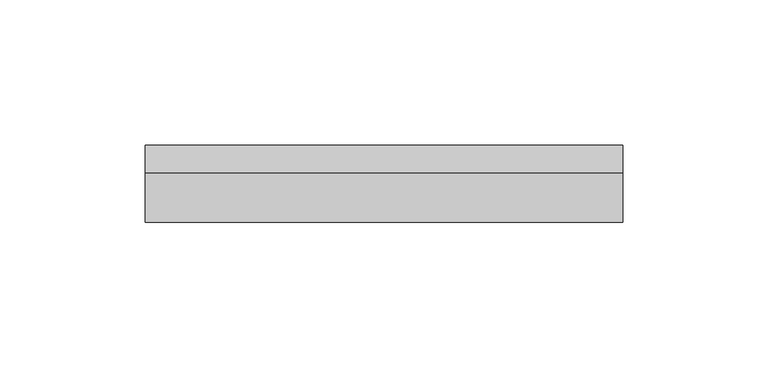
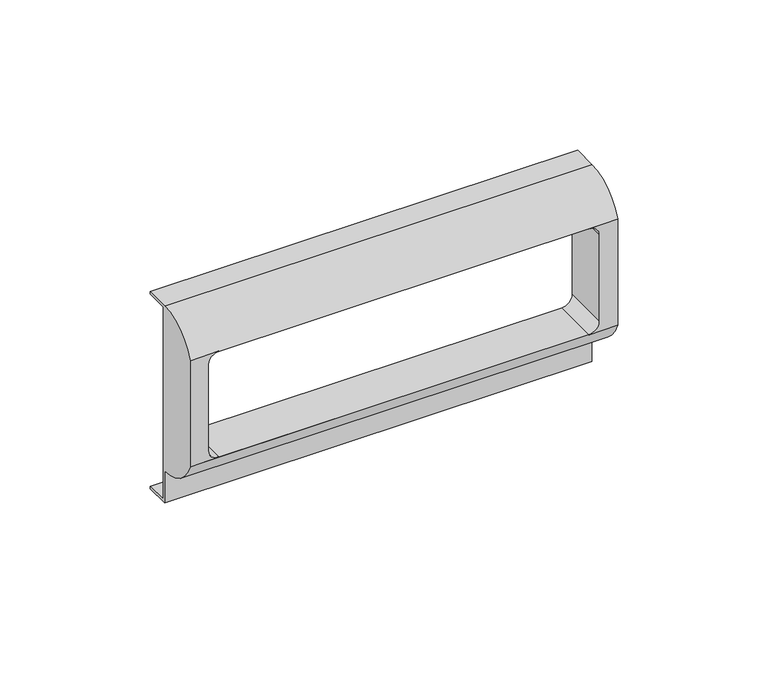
"""IFC4 building model written with IfcOpenShell, lengths in millimetres: proxy geometry."""

import ifcopenshell
import ifcopenshell.guid

model = None  # the IFC model being written
_history = None  # IfcOwnerHistory: only IFC2X3 demands one
_inside = {}  # id of a spatial element -> (the spatial element, [elements in it])
_under = {}  # id of a project, library or spatial element -> (it, [spatial elements below it])
_declared = {}  # id of a project -> (the project, [libraries it declares])
_typed = {}  # id of a type object -> (the type object, [elements of that type])
_made_of = {}  # id of a material, layer set ... -> (it, [elements and type objects made of it])


def new_model(schema):
    """Start an empty IFC model of exactly this schema.

    Asked for "IFC4X3", IfcOpenShell would pick the latest addendum, in which some entities
    have other attributes; the version numbers below select the first issue.
    IFC2X3 requires an IfcOwnerHistory on every rooted entity: one is made here for all.
    """
    global model, _history
    if schema == "IFC4X3":
        model = ifcopenshell.file(schema_version=(4, 3, 0, 0))
    else:
        model = ifcopenshell.file(schema=schema)
    _inside.clear()
    _under.clear()
    _declared.clear()
    _typed.clear()
    _made_of.clear()
    _history = None
    if model.schema == "IFC2X3":
        org = make("IfcOrganization", Name="unknown")
        user = make(
            "IfcPersonAndOrganization",
            ThePerson=make("IfcPerson", FamilyName="unknown"),
            TheOrganization=org,
        )
        app = make(
            "IfcApplication",
            ApplicationDeveloper=org,
            Version="unknown",
            ApplicationFullName="unknown",
            ApplicationIdentifier="unknown",
        )
        _history = make(
            "IfcOwnerHistory",
            OwningUser=user,
            OwningApplication=app,
            ChangeAction="ADDED",
            CreationDate=0,
        )
    return model


def make(cls, **values):
    """One entity of the class cls with the attributes given. An attribute that is None is left unset."""
    return model.create_entity(
        cls, **{name: value for name, value in values.items() if value is not None}
    )


def rooted(cls, **values):
    """An entity with a GlobalId (a new one), such as an element, a storey or a relation."""
    return make(cls, GlobalId=ifcopenshell.guid.new(), OwnerHistory=_history, **values)


def si_unit(unit_type, name, prefix=None):
    """IfcSIUnit, for example si_unit("LENGTHUNIT", "METRE", prefix="MILLI")."""
    return make("IfcSIUnit", UnitType=unit_type, Prefix=prefix, Name=name)


def assignment(units):
    """IfcUnitAssignment: the units of a project."""
    return None if units is None else make("IfcUnitAssignment", Units=units)


def point(xyz):
    """IfcCartesianPoint."""
    return None if xyz is None else make("IfcCartesianPoint", Coordinates=xyz)


def direction(xyz):
    """IfcDirection."""
    return None if xyz is None else make("IfcDirection", DirectionRatios=xyz)


def frame(location, z_axis=None, x_axis=None):
    """IfcAxis2Placement3D, a coordinate frame: its origin and axes. An axis left out is left unset."""
    return make(
        "IfcAxis2Placement3D",
        Location=point(location),
        Axis=direction(z_axis),
        RefDirection=direction(x_axis),
    )


def origin():
    """The frame at (0, 0, 0) with its axes left unset."""
    return frame((0.0, 0.0, 0.0))


def place(relative_to, where):
    """IfcLocalPlacement: puts the frame where relative to a parent placement (None: the world)."""
    return make(
        "IfcLocalPlacement", PlacementRelTo=relative_to, RelativePlacement=where
    )


def context(
    kind, dimensions, precision=None, world=None, true_north=None, identifier=None
):
    """IfcGeometricRepresentationContext, for example the 3D "Model" context."""
    return make(
        "IfcGeometricRepresentationContext",
        ContextIdentifier=identifier,
        ContextType=kind,
        CoordinateSpaceDimension=dimensions,
        Precision=precision,
        WorldCoordinateSystem=world,
        TrueNorth=true_north,
    )


def project(units=None, contexts=None):
    """IfcProject with its units and contexts."""
    return rooted(
        "IfcProject",
        Name="project",
        RepresentationContexts=contexts,
        UnitsInContext=assignment(units),
    )


def spatial(cls, under=None, at=None, **own):
    """A site, building, storey or space (cls), placed at a placement, below another one or the project."""
    s = rooted(cls, ObjectPlacement=at, **own)
    if under is not None:
        _under.setdefault(under.id(), (under, []))[1].append(s)
    return s


def polyline(points):
    """IfcPolyline through the points."""
    return make("IfcPolyline", Points=[point(p) for p in points])


def circle_curve(where, radius):
    """IfcCircle in the frame where."""
    return make("IfcCircle", Position=where, Radius=radius)


def shape(context_of_items, identifier, shape_type, items):
    """IfcShapeRepresentation: the items that make up one representation, for example the "Body"."""
    return make(
        "IfcShapeRepresentation",
        ContextOfItems=context_of_items,
        RepresentationIdentifier=identifier,
        RepresentationType=shape_type,
        Items=items,
    )


def source(mapping_origin, context_of_items, identifier, shape_type, items):
    """IfcRepresentationMap: a shape defined once, which mapped items show again and again."""
    return make(
        "IfcRepresentationMap",
        MappingOrigin=mapping_origin,
        MappedRepresentation=shape(context_of_items, identifier, shape_type, items),
    )


def transform(
    local_origin,
    x_axis=None,
    y_axis=None,
    z_axis=None,
    scale=None,
    scale2=None,
    scale3=None,
    uniform=True,
):
    """IfcCartesianTransformationOperator3D, or its non-uniform kind. x_axis, y_axis, z_axis: its Axis1, 2, 3."""
    if uniform:
        return make(
            "IfcCartesianTransformationOperator3D",
            Axis1=direction(x_axis),
            Axis2=direction(y_axis),
            LocalOrigin=point(local_origin),
            Scale=scale,
            Axis3=direction(z_axis),
        )
    return make(
        "IfcCartesianTransformationOperator3DnonUniform",
        Axis1=direction(x_axis),
        Axis2=direction(y_axis),
        LocalOrigin=point(local_origin),
        Scale=scale,
        Axis3=direction(z_axis),
        Scale2=scale2,
        Scale3=scale3,
    )


def mapped(mapping_source, mapping_target):
    """IfcMappedItem: shows the shape of a source again, moved by a transform."""
    return make(
        "IfcMappedItem", MappingSource=mapping_source, MappingTarget=mapping_target
    )


def made_of(thing, what):
    """Note that an element or type object is made of a material, layer set ...; save() writes the relation."""
    if what is not None:
        _made_of.setdefault(what.id(), (what, []))[1].append(thing)
    return thing


def element(
    cls,
    number,
    at=None,
    inside=None,
    cuts=None,
    type_object=None,
    material=None,
    context=None,
    identifier="Body",
    shape_type=None,
    held_by="IfcProductDefinitionShape",
    body=None,
    shapes=None,
    **own,
):
    """One element of the class cls, such as IfcWall. Its Tag is "e" and its number.

    at: its placement. inside: the storey or other place that contains it. cuts: it is an
    opening in that element (IfcRelVoidsElement). A single representation is given by context,
    identifier, shape_type and body (its items); several are given by shapes. held_by: the class
    of the entity that holds the representations. save() writes the other relations.
    """
    e = rooted(cls, Tag="e%d" % number, ObjectPlacement=at, **own)
    if body is not None:
        shapes = [shape(context, identifier, shape_type, body)]
    if shapes is not None:
        e.Representation = make(held_by, Representations=shapes)
    if inside is not None:
        _inside.setdefault(inside.id(), (inside, []))[1].append(e)
    if cuts is not None:
        rooted(
            "IfcRelVoidsElement", RelatingBuildingElement=cuts, RelatedOpeningElement=e
        )
    if type_object is not None:
        _typed.setdefault(type_object.id(), (type_object, []))[1].append(e)
    return made_of(e, material)


def aggregate(whole, parts):
    """IfcRelAggregates: a whole, such as a stair, and the parts it consists of."""
    return rooted("IfcRelAggregates", RelatingObject=whole, RelatedObjects=parts)


def save(model, path):
    """Write the relations noted so far, then the file.

    IfcRelAggregates (storeys below a building ...), IfcRelContainedInSpatialStructure (elements
    in a storey), IfcRelDefinesByType, IfcRelAssociatesMaterial and IfcRelDeclares: one each for
    every whole, place, type object, material and project.
    """
    for whole, parts in _under.values():
        aggregate(whole, parts)
    for where, things in _inside.values():
        rooted(
            "IfcRelContainedInSpatialStructure",
            RelatedElements=things,
            RelatingStructure=where,
        )
    for kind, things in _typed.values():
        rooted("IfcRelDefinesByType", RelatedObjects=things, RelatingType=kind)
    for what, things in _made_of.values():
        rooted("IfcRelAssociatesMaterial", RelatedObjects=things, RelatingMaterial=what)
    for by, libraries in _declared.values():
        rooted("IfcRelDeclares", RelatingContext=by, RelatedDefinitions=libraries)
    model.write(path)


def plane_surface(at):
    """IfcPlane: the flat surface through the origin of the frame at, square to its z axis."""
    return make("IfcPlane", Position=at)


def cylinder_surface(at, radius):
    """IfcCylindricalSurface: all points at the distance radius from the z axis of the frame at."""
    return make("IfcCylindricalSurface", Position=at, Radius=radius)


def revolved_surface(curve, axis_point, axis_direction):
    """IfcSurfaceOfRevolution: the curve turned about the line through axis_point along axis_direction."""
    return make(
        "IfcSurfaceOfRevolution",
        SweptCurve=make("IfcArbitraryOpenProfileDef", ProfileType="CURVE", Curve=curve),
        AxisPosition=make("IfcAxis1Placement", Location=point(axis_point), Axis=direction(axis_direction)),
    )


def advanced_brep(points, edges, surfaces, faces):
    """IfcAdvancedBrep: a solid bounded by faces that lie on surfaces and meet in shared edges.

    An edge is (start, end): straight between two places in points (the first is 0);
    or (start, end, curve); or (start, end, curve, False) where it runs against its curve.
    A face is (place in surfaces, loops), or (place, loops, False) where it looks against
    its surface's normal. A loop lists edges by number (the first is 1), with a minus sign
    where the edge is run from its end to its start. The first loop is the outer one.
    """
    corners = [point(p) for p in points]
    vertices = [make("IfcVertexPoint", VertexGeometry=c) for c in corners]
    made = []
    for start, end, *more in edges:
        made.append(
            make(
                "IfcEdgeCurve",
                EdgeStart=vertices[start],
                EdgeEnd=vertices[end],
                EdgeGeometry=more[0] if more else make("IfcPolyline", Points=[corners[start], corners[end]]),
                SameSense=more[1] if len(more) > 1 else True,
            )
        )
    hull = []
    for where, loops, *sense in faces:
        bounds = []
        for j, loop in enumerate(loops):
            ring = [make("IfcOrientedEdge", EdgeElement=made[abs(k) - 1], Orientation=k > 0) for k in loop]
            bounds.append(
                make(
                    "IfcFaceOuterBound" if j == 0 else "IfcFaceBound",
                    Bound=make("IfcEdgeLoop", EdgeList=ring),
                    Orientation=True,
                )
            )
        hull.append(make("IfcAdvancedFace", Bounds=bounds, FaceSurface=surfaces[where], SameSense=sense[0] if sense else True))
    return make("IfcAdvancedBrep", Outer=make("IfcClosedShell", CfsFaces=hull))


def electrical_fixtures_432cce51(model_context):
    return source(origin(), model_context, "Body", "AdvancedBrep", [
        advanced_brep(
        [(82.0, 8.4, 39.0), (82.0, 8.4, 40.0), (82.0, -1.0, 40.0), (82.0, -18.0, 28.0), (82.0, -18.0, -15.0), (82.0, -1.0, -27.0), (82.0, -1.0, -40.0), (82.0, 8.4, -40.0), (82.0, 8.4, -39.0), (82.0, 0.0, -39.0), (82.0, 0.0, 39.0), (-82.0, 8.4, 39.0), (-82.0, 0.0, 39.0), (-82.0, 0.0, -39.0), (-82.0, 8.4, -39.0), (-82.0, 8.4, -40.0), (-82.0, -1.0, -40.0), (-82.0, -1.0, -27.0), (-82.0, -18.0, -15.0), (-82.0, -18.0, 28.0), (-82.0, -1.0, 40.0), (-82.0, 8.4, 40.0), (70.9686648, -18.0, 28.0), (75.0, -18.0, 23.9686648), (75.0, -18.0, -10.9686648), (70.9686648, -18.0, -15.0), (-70.9686648, -18.0, -15.0), (-75.0, -18.0, -10.9686648), (-75.0, -18.0, 23.9686648), (-70.9686648, -18.0, 28.0), (70.9686648, 0.0, 28.0), (-70.9686648, 0.0, 28.0), (-75.0, 0.0, 23.9686648), (-75.0, 0.0, -10.9686648), (-70.9686648, 0.0, -15.0), (70.9686648, 0.0, -15.0), (75.0, 0.0, -10.9686648), (75.0, 0.0, 23.9686648)],
        [
            (0, 1),
            (1, 2),
            (2, 3, circle_curve(frame((82.0, -1.0, 21.9583333), z_axis=(1.0, 0.0, 0.0), x_axis=(0.0, 1.0, 0.0)), 18.0416667)),
            (3, 4),
            (4, 5, circle_curve(frame((82.0, -1.0, -8.9583333), z_axis=(1.0, 0.0, 0.0), x_axis=(0.0, 1.0, 0.0)), 18.0416667)),
            (5, 6),
            (6, 7),
            (7, 8),
            (8, 9),
            (9, 10),
            (10, 0),
            (11, 12),
            (12, 13),
            (13, 14),
            (14, 15),
            (15, 16),
            (16, 17),
            (17, 18, circle_curve(frame((-82.0, -1.0, -8.9583333), z_axis=(-1.0, 0.0, 0.0), x_axis=(0.0, 1.0, 0.0)), 18.0416667)),
            (18, 19),
            (19, 20, circle_curve(frame((-82.0, -1.0, 21.9583333), z_axis=(-1.0, 0.0, 0.0), x_axis=(0.0, 1.0, 0.0)), 18.0416667)),
            (20, 21),
            (21, 11),
            (0, 11),
            (21, 1),
            (20, 2),
            (3, 22),
            (22, 23, circle_curve(frame((70.9686648, -18.0, 23.9686648), z_axis=(0.0, 1.0, 0.0), x_axis=(1.0, 0.0, 0.0)), 4.0313352)),
            (23, 24),
            (24, 25, circle_curve(frame((70.9686648, -18.0, -10.9686648), z_axis=(0.0, 1.0, 0.0), x_axis=(1.0, 0.0, 0.0)), 4.0313352)),
            (25, 4),
            (18, 26),
            (26, 27, circle_curve(frame((-70.9686648, -18.0, -10.9686648), z_axis=(0.0, 1.0, 0.0), x_axis=(1.0, 0.0, 0.0)), 4.0313352)),
            (27, 28),
            (28, 29, circle_curve(frame((-70.9686648, -18.0, 23.9686648), z_axis=(0.0, 1.0, 0.0), x_axis=(1.0, 0.0, 0.0)), 4.0313352)),
            (29, 19),
            (5, 17),
            (16, 6),
            (15, 7),
            (14, 8),
            (13, 9),
            (12, 10),
            (30, 31),
            (31, 32, circle_curve(frame((-70.9686648, 0.0, 23.9686648), z_axis=(0.0, -1.0, 0.0), x_axis=(1.0, 0.0, 0.0)), 4.0313352)),
            (32, 33),
            (33, 34, circle_curve(frame((-70.9686648, 0.0, -10.9686648), z_axis=(0.0, -1.0, 0.0), x_axis=(1.0, 0.0, 0.0)), 4.0313352)),
            (34, 35),
            (35, 36, circle_curve(frame((70.9686648, 0.0, -10.9686648), z_axis=(0.0, -1.0, 0.0), x_axis=(1.0, 0.0, 0.0)), 4.0313352)),
            (36, 37),
            (37, 30, circle_curve(frame((70.9686648, 0.0, 23.9686648), z_axis=(0.0, -1.0, 0.0), x_axis=(1.0, 0.0, 0.0)), 4.0313352)),
            (29, 22),
            (25, 26),
            (29, 31),
            (30, 22),
            (28, 32),
            (27, 33),
            (26, 34),
            (25, 35),
            (24, 36),
            (23, 37),
        ],
        [
            plane_surface(frame((82.0, 8.4, 40.0), z_axis=(1.0, 0.0, 0.0), x_axis=(0.0, 0.0, 1.0))),
            plane_surface(frame((-82.0, 8.4, 40.0), z_axis=(-1.0, 0.0, 0.0), x_axis=(0.0, 0.0, -1.0))),
            plane_surface(frame((82.0, 8.4, 39.0), z_axis=(0.0, 1.0, 0.0), x_axis=(-1.0, 0.0, 0.0))),
            plane_surface(frame((82.0, 8.4, 40.0), z_axis=(0.0, 0.0, 1.0), x_axis=(-1.0, 0.0, 0.0))),
            plane_surface(frame((82.0, -18.0, 28.0), z_axis=(0.0, -1.0, 0.0), x_axis=(-1.0, 0.0, 0.0))),
            plane_surface(frame((82.0, -1.0, -27.0), z_axis=(0.0, -1.0, 0.0), x_axis=(-1.0, 0.0, 0.0))),
            plane_surface(frame((82.0, -1.0, -40.0), z_axis=(0.0, 0.0, -1.0), x_axis=(-1.0, 0.0, 0.0))),
            plane_surface(frame((82.0, 8.4, -40.0), z_axis=(0.0, 1.0, 0.0), x_axis=(-1.0, 0.0, 0.0))),
            plane_surface(frame((82.0, 8.4, -39.0), z_axis=(0.0, 0.0, 1.0), x_axis=(-1.0, 0.0, 0.0))),
            plane_surface(frame((82.0, 0.0, -39.0), z_axis=(0.0, 1.0, 0.0), x_axis=(-1.0, 0.0, 0.0))),
            plane_surface(frame((82.0, 0.0, 39.0), z_axis=(0.0, 0.0, -1.0), x_axis=(-1.0, 0.0, 0.0))),
            cylinder_surface(frame((-82.0, -1.0, 21.9583333), z_axis=(1.0, 0.0, 0.0), x_axis=(0.0, 1.0, 0.0)), 18.0416667),
            cylinder_surface(frame((-82.0, -1.0, -8.9583333), z_axis=(1.0, 0.0, 0.0), x_axis=(0.0, 1.0, 0.0)), 18.0416667),
            plane_surface(frame((70.9686648, -18.0, 28.0), z_axis=(0.0, 0.0, -1.0), x_axis=(0.0, 1.0, 0.0))),
            revolved_surface(polyline([(-66.9373296, -18.0, 23.9686648), (-66.9373296, 0.0, 23.9686648)]), (-70.9686648, 0.0, 23.9686648), (0.0, -1.0, 0.0)),
            plane_surface(frame((-75.0, -18.0, 23.9686648), z_axis=(1.0, 0.0, 0.0), x_axis=(0.0, 1.0, 0.0))),
            revolved_surface(polyline([(-66.9373296, -18.0, -10.9686648), (-66.9373296, 0.0, -10.9686648)]), (-70.9686648, 0.0, -10.9686648), (0.0, -1.0, 0.0)),
            plane_surface(frame((-70.9686648, -18.0, -15.0), z_axis=(0.0, 0.0, 1.0), x_axis=(0.0, 1.0, 0.0))),
            revolved_surface(polyline([(75.0, -18.0, -10.9686648), (75.0, 0.0, -10.9686648)]), (70.9686648, 0.0, -10.9686648), (0.0, -1.0, 0.0)),
            plane_surface(frame((75.0, -18.0, -10.9686648), z_axis=(-1.0, 0.0, 0.0), x_axis=(0.0, 1.0, 0.0))),
            revolved_surface(polyline([(75.0, -18.0, 23.9686648), (75.0, 0.0, 23.9686648)]), (70.9686648, 0.0, 23.9686648), (0.0, -1.0, 0.0)),
        ],
        [
            (0, [[1, 2, 3, 4, 5, 6, 7, 8, 9, 10, 11]]),
            (1, [[12, 13, 14, 15, 16, 17, 18, 19, 20, 21, 22]]),
            (2, [[-1, 23, -22, 24]]),
            (3, [[-2, -24, -21, 25]]),
            (4, [[-4, 26, 27, 28, 29, 30]]),
            (4, [[-19, 31, 32, 33, 34, 35]]),
            (5, [[-6, 36, -17, 37]]),
            (6, [[-7, -37, -16, 38]]),
            (7, [[-8, -38, -15, 39]]),
            (8, [[-9, -39, -14, 40]]),
            (9, [[-10, -40, -13, 41], [42, 43, 44, 45, 46, 47, 48, 49]]),
            (10, [[-11, -41, -12, -23]]),
            (11, [[-3, -25, -20, -35, 50, -26]]),
            (12, [[-5, -30, 51, -31, -18, -36]]),
            (13, [[52, -42, 53, -50]]),
            (14, [[-52, -34, 54, -43]]),
            (15, [[-54, -33, 55, -44]]),
            (16, [[-55, -32, 56, -45]]),
            (17, [[-56, -51, 57, -46]]),
            (18, [[-57, -29, 58, -47]]),
            (19, [[-58, -28, 59, -48]]),
            (20, [[-53, -49, -59, -27]]),
        ],
    ),
    ])


if __name__ == "__main__":
    model = new_model("IFC4")
    model_context = context("Model", 3, world=origin())
    ifc_project = project(units=[si_unit("LENGTHUNIT", "METRE", prefix="MILLI")], contexts=[model_context])
    site = spatial("IfcSite", under=ifc_project)
    building = spatial("IfcBuilding", under=site)
    placement = place(None, origin())
    electrical_fixtures_shape = electrical_fixtures_432cce51(model_context)
    element("IfcBuildingElementProxy", 1, Name="КНС_РамкаСуппорт_ILC_DKC : Серия \"Brava\"", ObjectType="КНС_РамкаСуппорт_ILC_DKC : Серия \"Brava\"", at=placement, inside=building, context=model_context, shape_type="MappedRepresentation", body=[
        mapped(electrical_fixtures_shape, transform((0.0, 0.0, 0.0), x_axis=(1.0, 0.0, 0.0), y_axis=(0.0, 1.0, 0.0), z_axis=(0.0, 0.0, 1.0))),
    ])
    save(model, "model.ifc")
